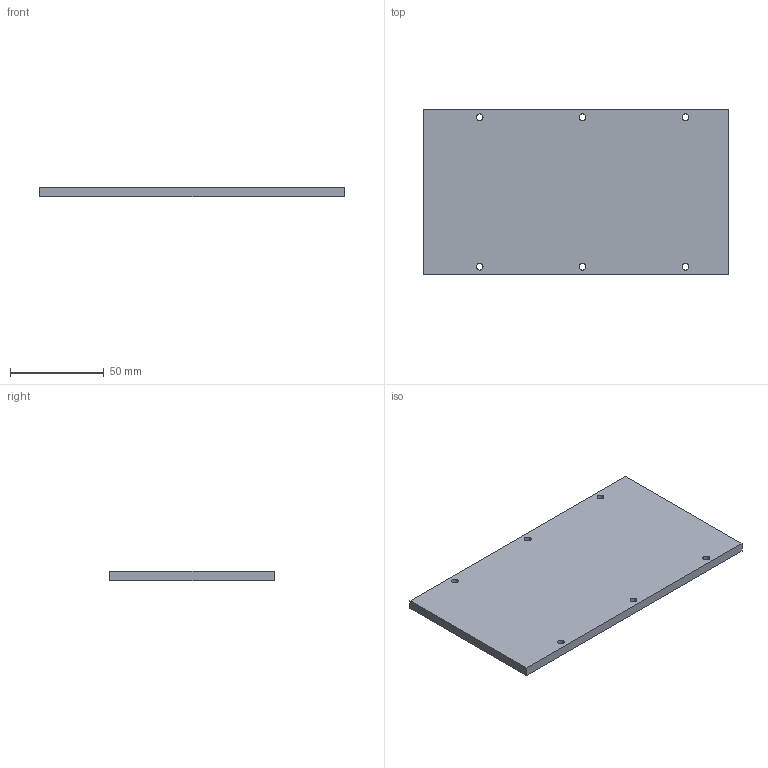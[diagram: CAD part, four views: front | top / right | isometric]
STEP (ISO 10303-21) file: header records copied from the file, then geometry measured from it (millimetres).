
FILE_DESCRIPTION(('FreeCAD Model'),'2;1');
FILE_NAME('Open CASCADE Shape Model','2026-09-11T14:18:25',( '' ),( '' ),'Open CASCADE STEP processor 7.8','FreeCAD','Unknown');
FILE_SCHEMA(('AUTOMOTIVE_DESIGN { 1 0 10303 214 1 1 1 1 }'));
Length unit declared in the file: millimetre
Products named in the file (1): Open CASCADE STEP translator 7.8 5
Bounding box: 163 x 88 x 5 mm (x, y, z)
Volume: 68619.9 mm3; surface area: 33108.9 mm2
Topology: 1 solids, 1 shells, 22 faces, 54 edges, 36 vertices
Faces by surface type: plane 16, cylinder 6
Full cylindrical faces by diameter (mm): 3.6 x6
Entity records: 684 total; most frequent: CARTESIAN_POINT 113, DIRECTION 112, ORIENTED_EDGE 108, EDGE_CURVE 54, LINE 42, VECTOR 42, FACE_BOUND 36, EDGE_LOOP 36
